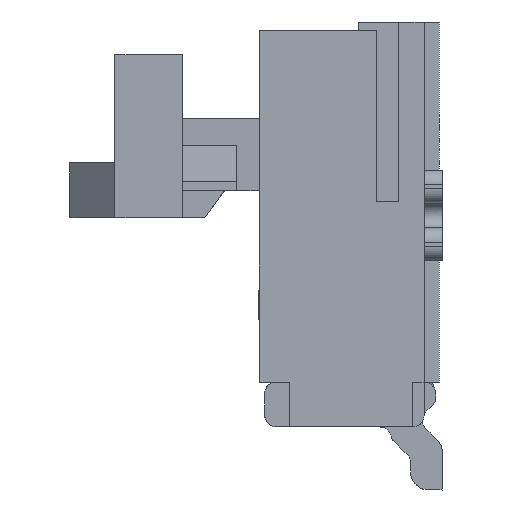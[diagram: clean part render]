
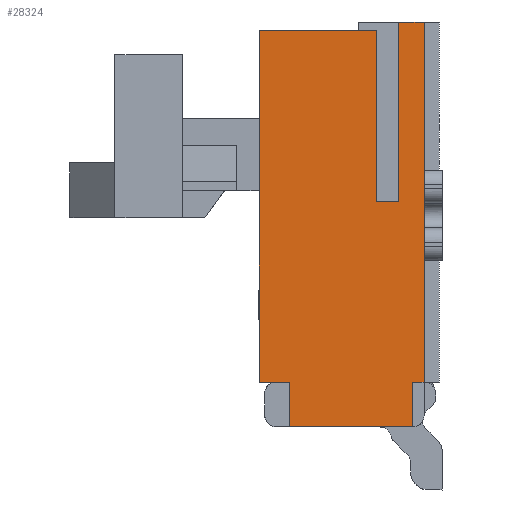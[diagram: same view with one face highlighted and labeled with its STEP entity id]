
A CAD part, left-side view. The second image highlights one B-rep face of the part: STEP entity #28324.
In plain terms, the highlighted free-form (B-spline) face has degree [1, 1] with [2, 2] control points.
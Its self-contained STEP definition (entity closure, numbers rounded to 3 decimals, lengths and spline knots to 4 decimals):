
#2172 = CARTESIAN_POINT ( 'NONE',  ( -47.9653, 8.9749, 2.5 ) ) ;
#2207 = VERTEX_POINT ( 'NONE', #15468 ) ;
#5381 = ORIENTED_EDGE ( 'NONE', *, *, #36265, .F. ) ;
#8151 = EDGE_CURVE ( 'NONE', #2207, #26899, #50815, .T. ) ;
#8531 = B_SPLINE_CURVE_WITH_KNOTS ( 'NONE', 1,
 ( #45074, #55943 ),
 .UNSPECIFIED., .F., .F.,
 ( 2, 2 ),
 ( 0., 1. ),
 .UNSPECIFIED. ) ;
#8936 = CARTESIAN_POINT ( 'NONE',  ( -47.9653, 7.1449, -1.4 ) ) ;
#10060 = CARTESIAN_POINT ( 'NONE',  ( -47.9653, 7.1449, -1.4 ) ) ;
#11514 = B_SPLINE_CURVE_WITH_KNOTS ( 'NONE', 1,
 ( #50821, #53188 ),
 .UNSPECIFIED., .F., .F.,
 ( 2, 2 ),
 ( 0., 1. ),
 .UNSPECIFIED. ) ;
#11795 = EDGE_LOOP ( 'NONE', ( #67594, #51586, #51092, #38079, #13487, #40729, #71249, #5381, #56457, #36993, #31435, #76403 ) ) ;
#11919 = CARTESIAN_POINT ( 'NONE',  ( -47.9653, 7.6749, 0.6 ) ) ;
#13279 = CARTESIAN_POINT ( 'NONE',  ( -47.9653, 7.6749, 2.5 ) ) ;
#13487 = ORIENTED_EDGE ( 'NONE', *, *, #56071, .T. ) ;
#13780 = VERTEX_POINT ( 'NONE', #8936 ) ;
#14268 = CARTESIAN_POINT ( 'NONE',  ( -47.9653, 8.9749, 2.5 ) ) ;
#14747 = CARTESIAN_POINT ( 'NONE',  ( -47.9653, 7.1449, -1.4 ) ) ;
#14959 = B_SPLINE_CURVE_WITH_KNOTS ( 'NONE', 1,
 ( #24169, #48830 ),
 .UNSPECIFIED., .F., .F.,
 ( 2, 2 ),
 ( 0., 1. ),
 .UNSPECIFIED. ) ;
#15468 = CARTESIAN_POINT ( 'NONE',  ( -47.9653, 7.2749, -1.9 ) ) ;
#15916 = EDGE_CURVE ( 'NONE', #57638, #21599, #66066, .T. ) ;
#17290 = VERTEX_POINT ( 'NONE', #27063 ) ;
#19716 = CARTESIAN_POINT ( 'NONE',  ( -47.9653, 7.6749, 0.6 ) ) ;
#20670 = EDGE_CURVE ( 'NONE', #78710, #50008, #11514, .T. ) ;
#20864 = CARTESIAN_POINT ( 'NONE',  ( -47.9653, 7.1449, 2.6 ) ) ;
#20881 = CARTESIAN_POINT ( 'NONE',  ( -47.9653, 8.9749, -1.4 ) ) ;
#21155 = EDGE_CURVE ( 'NONE', #13780, #26899, #22799, .T. ) ;
#21572 = CARTESIAN_POINT ( 'NONE',  ( -47.9653, 8.9749, -1.4 ) ) ;
#21599 = VERTEX_POINT ( 'NONE', #29974 ) ;
#22060 = CARTESIAN_POINT ( 'NONE',  ( -47.9653, 8.9749, 2.6 ) ) ;
#22799 = B_SPLINE_CURVE_WITH_KNOTS ( 'NONE', 1,
 ( #14747, #45885 ),
 .UNSPECIFIED., .F., .F.,
 ( 2, 2 ),
 ( 0., 1. ),
 .UNSPECIFIED. ) ;
#22966 = B_SPLINE_SURFACE_WITH_KNOTS ( 'NONE', 1, 1, ( 
 ( #20864, #22060 ),
 ( #39094, #77420 ) ),
 .UNSPECIFIED., .F., .F., .F.,
 ( 2, 2 ),
 ( 2, 2 ),
 ( 0., 1. ),
 ( 0., 1. ),
 .UNSPECIFIED. ) ;
#23402 = CARTESIAN_POINT ( 'NONE',  ( -47.9653, 7.4249, 2.6 ) ) ;
#23992 = VERTEX_POINT ( 'NONE', #30885 ) ;
#24169 = CARTESIAN_POINT ( 'NONE',  ( -47.9653, 8.6449, -1.9 ) ) ;
#24852 = CARTESIAN_POINT ( 'NONE',  ( -47.9653, 7.2749, -1.9 ) ) ;
#26899 = VERTEX_POINT ( 'NONE', #57808 ) ;
#27063 = CARTESIAN_POINT ( 'NONE',  ( -47.9653, 7.6749, 2.5 ) ) ;
#27147 = B_SPLINE_CURVE_WITH_KNOTS ( 'NONE', 1,
 ( #23402, #73461 ),
 .UNSPECIFIED., .F., .F.,
 ( 2, 2 ),
 ( 0., 1. ),
 .UNSPECIFIED. ) ;
#28113 = CARTESIAN_POINT ( 'NONE',  ( -47.9653, 7.4249, 2.6 ) ) ;
#28324 = ADVANCED_FACE ( 'NONE', ( #71347 ), #22966, .F. ) ;
#28390 = CARTESIAN_POINT ( 'NONE',  ( -47.9653, 7.1449, 2.6 ) ) ;
#29974 = CARTESIAN_POINT ( 'NONE',  ( -47.9653, 8.9749, 2.5 ) ) ;
#30885 = CARTESIAN_POINT ( 'NONE',  ( -47.9653, 8.6449, -1.4 ) ) ;
#31435 = ORIENTED_EDGE ( 'NONE', *, *, #73696, .F. ) ;
#34628 = VERTEX_POINT ( 'NONE', #69563 ) ;
#36265 = EDGE_CURVE ( 'NONE', #64871, #13780, #40976, .T. ) ;
#36993 = ORIENTED_EDGE ( 'NONE', *, *, #20670, .F. ) ;
#37205 = CARTESIAN_POINT ( 'NONE',  ( -47.9653, 7.4249, 0.6 ) ) ;
#38079 = ORIENTED_EDGE ( 'NONE', *, *, #74887, .F. ) ;
#39094 = CARTESIAN_POINT ( 'NONE',  ( -47.9653, 7.1449, -1.9 ) ) ;
#40214 = CARTESIAN_POINT ( 'NONE',  ( -47.9653, 8.9749, -1.4 ) ) ;
#40729 = ORIENTED_EDGE ( 'NONE', *, *, #8151, .T. ) ;
#40976 = B_SPLINE_CURVE_WITH_KNOTS ( 'NONE', 1,
 ( #65393, #10060 ),
 .UNSPECIFIED., .F., .F.,
 ( 2, 2 ),
 ( 0., 1. ),
 .UNSPECIFIED. ) ;
#41868 = CARTESIAN_POINT ( 'NONE',  ( -47.9653, 7.2749, -1.4 ) ) ;
#43275 = B_SPLINE_CURVE_WITH_KNOTS ( 'NONE', 1,
 ( #14268, #63145 ),
 .UNSPECIFIED., .F., .F.,
 ( 2, 2 ),
 ( 0., 1. ),
 .UNSPECIFIED. ) ;
#43671 = B_SPLINE_CURVE_WITH_KNOTS ( 'NONE', 1,
 ( #13279, #19716 ),
 .UNSPECIFIED., .F., .F.,
 ( 2, 2 ),
 ( 0., 1. ),
 .UNSPECIFIED. ) ;
#44257 = EDGE_CURVE ( 'NONE', #17290, #49077, #43671, .T. ) ;
#45074 = CARTESIAN_POINT ( 'NONE',  ( -47.9653, 8.6449, -1.9 ) ) ;
#45240 = EDGE_CURVE ( 'NONE', #50008, #64871, #27147, .T. ) ;
#45885 = CARTESIAN_POINT ( 'NONE',  ( -47.9653, 7.2749, -1.4 ) ) ;
#48830 = CARTESIAN_POINT ( 'NONE',  ( -47.9653, 7.2749, -1.9 ) ) ;
#49077 = VERTEX_POINT ( 'NONE', #67495 ) ;
#49105 = CARTESIAN_POINT ( 'NONE',  ( -47.9653, 7.4249, 0.6 ) ) ;
#50008 = VERTEX_POINT ( 'NONE', #28113 ) ;
#50815 = B_SPLINE_CURVE_WITH_KNOTS ( 'NONE', 1,
 ( #24852, #41868 ),
 .UNSPECIFIED., .F., .F.,
 ( 2, 2 ),
 ( 0., 1. ),
 .UNSPECIFIED. ) ;
#50821 = CARTESIAN_POINT ( 'NONE',  ( -47.9653, 7.4249, 0.6 ) ) ;
#51092 = ORIENTED_EDGE ( 'NONE', *, *, #79138, .F. ) ;
#51586 = ORIENTED_EDGE ( 'NONE', *, *, #15916, .F. ) ;
#51609 = CARTESIAN_POINT ( 'NONE',  ( -47.9653, 8.6449, -1.4 ) ) ;
#53174 = B_SPLINE_CURVE_WITH_KNOTS ( 'NONE', 1,
 ( #11919, #49105 ),
 .UNSPECIFIED., .F., .F.,
 ( 2, 2 ),
 ( 0., 1. ),
 .UNSPECIFIED. ) ;
#53188 = CARTESIAN_POINT ( 'NONE',  ( -47.9653, 7.4249, 2.6 ) ) ;
#55943 = CARTESIAN_POINT ( 'NONE',  ( -47.9653, 8.6449, -1.4 ) ) ;
#56071 = EDGE_CURVE ( 'NONE', #34628, #2207, #14959, .T. ) ;
#56457 = ORIENTED_EDGE ( 'NONE', *, *, #45240, .F. ) ;
#57638 = VERTEX_POINT ( 'NONE', #40214 ) ;
#57808 = CARTESIAN_POINT ( 'NONE',  ( -47.9653, 7.2749, -1.4 ) ) ;
#57924 = EDGE_CURVE ( 'NONE', #21599, #17290, #43275, .T. ) ;
#58900 = B_SPLINE_CURVE_WITH_KNOTS ( 'NONE', 1,
 ( #51609, #20881 ),
 .UNSPECIFIED., .F., .F.,
 ( 2, 2 ),
 ( 0., 1. ),
 .UNSPECIFIED. ) ;
#63145 = CARTESIAN_POINT ( 'NONE',  ( -47.9653, 7.6749, 2.5 ) ) ;
#64871 = VERTEX_POINT ( 'NONE', #28390 ) ;
#65393 = CARTESIAN_POINT ( 'NONE',  ( -47.9653, 7.1449, 2.6 ) ) ;
#66066 = B_SPLINE_CURVE_WITH_KNOTS ( 'NONE', 1,
 ( #21572, #2172 ),
 .UNSPECIFIED., .F., .F.,
 ( 2, 2 ),
 ( 0., 1. ),
 .UNSPECIFIED. ) ;
#67495 = CARTESIAN_POINT ( 'NONE',  ( -47.9653, 7.6749, 0.6 ) ) ;
#67594 = ORIENTED_EDGE ( 'NONE', *, *, #57924, .F. ) ;
#69563 = CARTESIAN_POINT ( 'NONE',  ( -47.9653, 8.6449, -1.9 ) ) ;
#71249 = ORIENTED_EDGE ( 'NONE', *, *, #21155, .F. ) ;
#71347 = FACE_OUTER_BOUND ( 'NONE', #11795, .T. ) ;
#73461 = CARTESIAN_POINT ( 'NONE',  ( -47.9653, 7.1449, 2.6 ) ) ;
#73696 = EDGE_CURVE ( 'NONE', #49077, #78710, #53174, .T. ) ;
#74887 = EDGE_CURVE ( 'NONE', #34628, #23992, #8531, .T. ) ;
#76403 = ORIENTED_EDGE ( 'NONE', *, *, #44257, .F. ) ;
#77420 = CARTESIAN_POINT ( 'NONE',  ( -47.9653, 8.9749, -1.9 ) ) ;
#78710 = VERTEX_POINT ( 'NONE', #37205 ) ;
#79138 = EDGE_CURVE ( 'NONE', #23992, #57638, #58900, .T. ) ;
